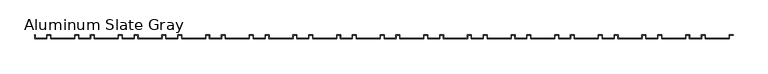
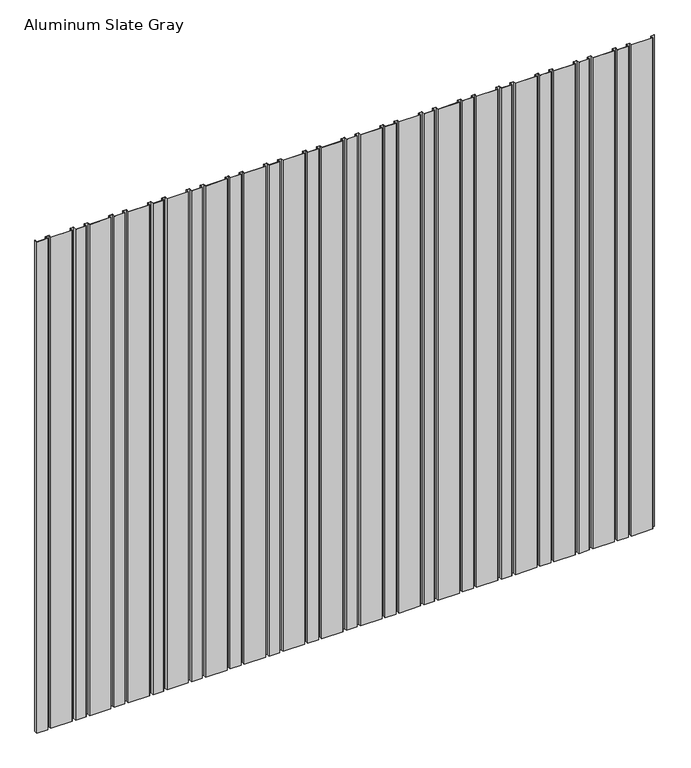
"""IFC4 building model written with IfcOpenShell, lengths in millimetres: proxy geometry, TitanTek VariPanel PLANK 975 : Aluminum Slate Gray."""

from ifc_helpers import new_model, si_unit, origin, origin_with_axes, place, context, project, spatial, polyline, outline, extrude, source, transform, mapped, element, save


def aluminum_slate_gray_adac02c7(model_context):
    return source(origin(), model_context, "Body", "SweptSolid", [
        extrude(outline(polyline([(4749.8, -0.9921875), (4749.8, -25.4), (4584.7, -25.4), (4584.7, -0.9921875), (4559.3, -0.9921875), (4559.3, -25.4), (4476.75, -25.4), (4476.75, 0.0), (4477.7421875, 0.0), (4477.7421875, -24.4078125), (4558.3078125, -24.4078125), (4558.3078125, 0.0), (4585.6921875, 0.0), (4585.6921875, -24.4078125), (4748.8078125, -24.4078125), (4748.8078125, 0.0), (4775.2, 0.0), (4775.2, -0.9921875), (4749.8, -0.9921875)])), origin_with_axes(), (0.0, 0.0, 1.0), 4000.0),
        extrude(outline(polyline([(4451.35, -0.9921875), (4451.35, -25.4), (4286.25, -25.4), (4286.25, -0.9921875), (4260.85, -0.9921875), (4260.85, -25.4), (4178.3, -25.4), (4178.3, 0.0), (4179.2921875, 0.0), (4179.2921875, -24.4078125), (4259.8578125, -24.4078125), (4259.8578125, 0.0), (4287.2421875, 0.0), (4287.2421875, -24.4078125), (4450.3578125, -24.4078125), (4450.3578125, 0.0), (4476.75, 0.0), (4476.75, -0.9921875), (4451.35, -0.9921875)])), origin_with_axes(), (0.0, 0.0, 1.0), 4000.0),
        extrude(outline(polyline([(4152.9, -0.9921875), (4152.9, -25.4), (3987.8, -25.4), (3987.8, -0.9921875), (3962.4, -0.9921875), (3962.4, -25.4), (3879.85, -25.4), (3879.85, 0.0), (3880.8421875, 0.0), (3880.8421875, -24.4078125), (3961.4078125, -24.4078125), (3961.4078125, 0.0), (3988.7921875, 0.0), (3988.7921875, -24.4078125), (4151.9078125, -24.4078125), (4151.9078125, 0.0), (4178.3, 0.0), (4178.3, -0.9921875), (4152.9, -0.9921875)])), origin_with_axes(), (0.0, 0.0, 1.0), 4000.0),
        extrude(outline(polyline([(3854.45, -0.9921875), (3854.45, -25.4), (3689.35, -25.4), (3689.35, -0.9921875), (3663.95, -0.9921875), (3663.95, -25.4), (3581.4, -25.4), (3581.4, 0.0), (3582.3921875, 0.0), (3582.3921875, -24.4078125), (3662.9578125, -24.4078125), (3662.9578125, 0.0), (3690.3421875, 0.0), (3690.3421875, -24.4078125), (3853.4578125, -24.4078125), (3853.4578125, 0.0), (3879.85, 0.0), (3879.85, -0.9921875), (3854.45, -0.9921875)])), origin_with_axes(), (0.0, 0.0, 1.0), 4000.0),
        extrude(outline(polyline([(3556.0, -0.9921875), (3556.0, -25.4), (3390.9, -25.4), (3390.9, -0.9921875), (3365.5, -0.9921875), (3365.5, -25.4), (3282.95, -25.4), (3282.95, 0.0), (3283.9421875, 0.0), (3283.9421875, -24.4078125), (3364.5078125, -24.4078125), (3364.5078125, 0.0), (3391.8921875, 0.0), (3391.8921875, -24.4078125), (3555.0078125, -24.4078125), (3555.0078125, 0.0), (3581.4, 0.0), (3581.4, -0.9921875), (3556.0, -0.9921875)])), origin_with_axes(), (0.0, 0.0, 1.0), 4000.0),
        extrude(outline(polyline([(3257.55, -0.9921875), (3257.55, -25.4), (3092.45, -25.4), (3092.45, -0.9921875), (3067.05, -0.9921875), (3067.05, -25.4), (2984.5, -25.4), (2984.5, 0.0), (2985.4921875, 0.0), (2985.4921875, -24.4078125), (3066.0578125, -24.4078125), (3066.0578125, 0.0), (3093.4421875, 0.0), (3093.4421875, -24.4078125), (3256.5578125, -24.4078125), (3256.5578125, 0.0), (3282.95, 0.0), (3282.95, -0.9921875), (3257.55, -0.9921875)])), origin_with_axes(), (0.0, 0.0, 1.0), 4000.0),
        extrude(outline(polyline([(2959.1, -0.9921875), (2959.1, -25.4), (2794.0, -25.4), (2794.0, -0.9921875), (2768.6, -0.9921875), (2768.6, -25.4), (2686.05, -25.4), (2686.05, 0.0), (2687.0421875, 0.0), (2687.0421875, -24.4078125), (2767.6078125, -24.4078125), (2767.6078125, 0.0), (2794.9921875, 0.0), (2794.9921875, -24.4078125), (2958.1078125, -24.4078125), (2958.1078125, 0.0), (2984.5, 0.0), (2984.5, -0.9921875), (2959.1, -0.9921875)])), origin_with_axes(), (0.0, 0.0, 1.0), 4000.0),
        extrude(outline(polyline([(2660.65, -0.9921875), (2660.65, -25.4), (2495.55, -25.4), (2495.55, -0.9921875), (2470.15, -0.9921875), (2470.15, -25.4), (2387.6, -25.4), (2387.6, 0.0), (2388.5921875, 0.0), (2388.5921875, -24.4078125), (2469.1578125, -24.4078125), (2469.1578125, 0.0), (2496.5421875, 0.0), (2496.5421875, -24.4078125), (2659.6578125, -24.4078125), (2659.6578125, 0.0), (2686.05, 0.0), (2686.05, -0.9921875), (2660.65, -0.9921875)])), origin_with_axes(), (0.0, 0.0, 1.0), 4000.0),
        extrude(outline(polyline([(2362.2, -0.9921875), (2362.2, -25.4), (2197.1, -25.4), (2197.1, -0.9921875), (2171.7, -0.9921875), (2171.7, -25.4), (2089.15, -25.4), (2089.15, 0.0), (2090.1421875, 0.0), (2090.1421875, -24.4078125), (2170.7078125, -24.4078125), (2170.7078125, 0.0), (2198.0921875, 0.0), (2198.0921875, -24.4078125), (2361.2078125, -24.4078125), (2361.2078125, 0.0), (2387.6, 0.0), (2387.6, -0.9921875), (2362.2, -0.9921875)])), origin_with_axes(), (0.0, 0.0, 1.0), 4000.0),
        extrude(outline(polyline([(2063.75, -0.9921875), (2063.75, -25.4), (1898.65, -25.4), (1898.65, -0.9921875), (1873.25, -0.9921875), (1873.25, -25.4), (1790.7, -25.4), (1790.7, 0.0), (1791.6921875, 0.0), (1791.6921875, -24.4078125), (1872.2578125, -24.4078125), (1872.2578125, 0.0), (1899.6421875, 0.0), (1899.6421875, -24.4078125), (2062.7578125, -24.4078125), (2062.7578125, 0.0), (2089.15, 0.0), (2089.15, -0.9921875), (2063.75, -0.9921875)])), origin_with_axes(), (0.0, 0.0, 1.0), 4000.0),
        extrude(outline(polyline([(1765.3, -0.9921875), (1765.3, -25.4), (1600.2, -25.4), (1600.2, -0.9921875), (1574.8, -0.9921875), (1574.8, -25.4), (1492.25, -25.4), (1492.25, 0.0), (1493.2421875, 0.0), (1493.2421875, -24.4078125), (1573.8078125, -24.4078125), (1573.8078125, 0.0), (1601.1921875, 0.0), (1601.1921875, -24.4078125), (1764.3078125, -24.4078125), (1764.3078125, 0.0), (1790.7, 0.0), (1790.7, -0.9921875), (1765.3, -0.9921875)])), origin_with_axes(), (0.0, 0.0, 1.0), 4000.0),
        extrude(outline(polyline([(1466.85, -0.9921875), (1466.85, -25.4), (1301.75, -25.4), (1301.75, -0.9921875), (1276.35, -0.9921875), (1276.35, -25.4), (1193.8, -25.4), (1193.8, 0.0), (1194.7921875, 0.0), (1194.7921875, -24.4078125), (1275.3578125, -24.4078125), (1275.3578125, 0.0), (1302.7421875, 0.0), (1302.7421875, -24.4078125), (1465.8578125, -24.4078125), (1465.8578125, 0.0), (1492.25, 0.0), (1492.25, -0.9921875), (1466.85, -0.9921875)])), origin_with_axes(), (0.0, 0.0, 1.0), 4000.0),
        extrude(outline(polyline([(1168.4, -0.9921875), (1168.4, -25.4), (1003.3, -25.4), (1003.3, -0.9921875), (977.9, -0.9921875), (977.9, -25.4), (895.35, -25.4), (895.35, 0.0), (896.3421875, 0.0), (896.3421875, -24.4078125), (976.9078125, -24.4078125), (976.9078125, 0.0), (1004.2921875, 0.0), (1004.2921875, -24.4078125), (1167.4078125, -24.4078125), (1167.4078125, 0.0), (1193.8, 0.0), (1193.8, -0.9921875), (1168.4, -0.9921875)])), origin_with_axes(), (0.0, 0.0, 1.0), 4000.0),
        extrude(outline(polyline([(869.95, -0.9921875), (869.95, -25.4), (704.85, -25.4), (704.85, -0.9921875), (679.45, -0.9921875), (679.45, -25.4), (596.9, -25.4), (596.9, 0.0), (597.8921875, 0.0), (597.8921875, -24.4078125), (678.4578125, -24.4078125), (678.4578125, 0.0), (705.8421875, 0.0), (705.8421875, -24.4078125), (868.9578125, -24.4078125), (868.9578125, 0.0), (895.35, 0.0), (895.35, -0.9921875), (869.95, -0.9921875)])), origin_with_axes(), (0.0, 0.0, 1.0), 4000.0),
        extrude(outline(polyline([(571.5, -0.9921875), (571.5, -25.4), (406.4, -25.4), (406.4, -0.9921875), (381.0, -0.9921875), (381.0, -25.4), (298.45, -25.4), (298.45, 0.0), (299.4421875, 0.0), (299.4421875, -24.4078125), (380.0078125, -24.4078125), (380.0078125, 0.0), (407.3921875, 0.0), (407.3921875, -24.4078125), (570.5078125, -24.4078125), (570.5078125, 0.0), (596.9, 0.0), (596.9, -0.9921875), (571.5, -0.9921875)])), origin_with_axes(), (0.0, 0.0, 1.0), 4000.0),
        extrude(outline(polyline([(273.05, -0.9921875), (273.05, -25.4), (107.95, -25.4), (107.95, -0.9921875), (82.55, -0.9921875), (82.55, -25.4), (0.0, -25.4), (0.0, 0.0), (0.9921875, 0.0), (0.9921875, -24.4078125), (81.5578125, -24.4078125), (81.5578125, 0.0), (108.9421875, 0.0), (108.9421875, -24.4078125), (272.0578125, -24.4078125), (272.0578125, 0.0), (298.45, 0.0), (298.45, -0.9921875), (273.05, -0.9921875)])), origin_with_axes(), (0.0, 0.0, 1.0), 4000.0),
    ])


if __name__ == "__main__":
    model = new_model("IFC4")
    model_context = context("Model", 3, world=origin())
    ifc_project = project(units=[si_unit("LENGTHUNIT", "METRE", prefix="MILLI")], contexts=[model_context])
    site = spatial("IfcSite", under=ifc_project)
    building = spatial("IfcBuilding", under=site)
    placement = place(None, origin())
    aluminum_slate_gray_shape = aluminum_slate_gray_adac02c7(model_context)
    element("IfcBuildingElementProxy", 1, Name="TitanTek VariPanel PLANK 975 : Aluminum Slate Gray", ObjectType="TitanTek VariPanel PLANK 975 : Aluminum Slate Gray", at=placement, inside=building, context=model_context, shape_type="MappedRepresentation", body=[
        mapped(aluminum_slate_gray_shape, transform((0.0, 0.0, 0.0), x_axis=(1.0, 0.0, 0.0), y_axis=(0.0, 1.0, 0.0), z_axis=(0.0, 0.0, 1.0))),
    ])
    save(model, "model.ifc")
